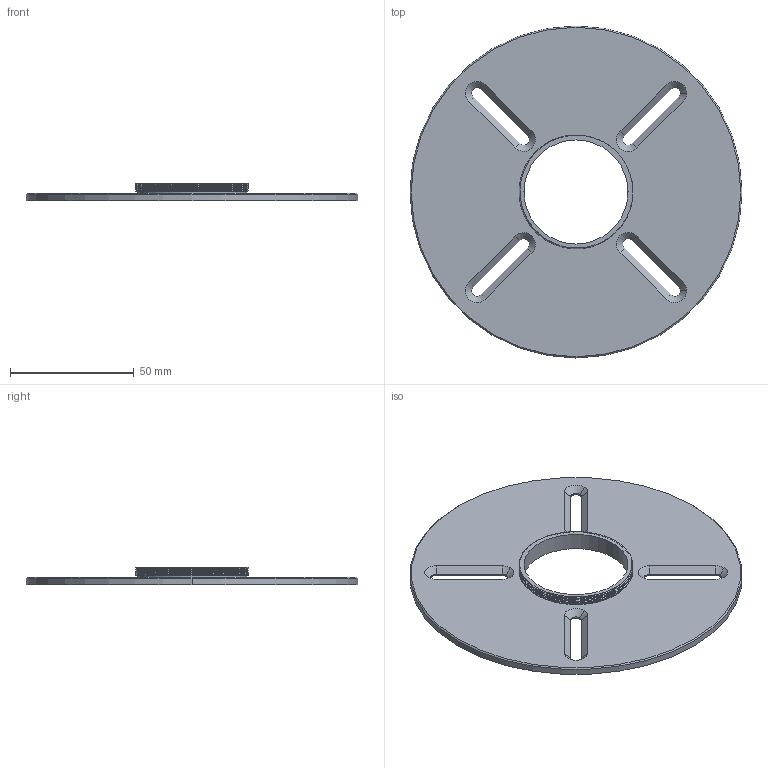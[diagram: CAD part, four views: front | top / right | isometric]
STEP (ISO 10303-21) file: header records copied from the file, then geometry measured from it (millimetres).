
FILE_DESCRIPTION (( 'STEP AP214' ), '1' );
FILE_NAME ('Ring Light Adapter.step', '2017-08-23T15:57:43', ( '' ), ( '' ), 'SwSTEP 2.0', 'SolidWorks 2017', '' );
FILE_SCHEMA (( 'AUTOMOTIVE_DESIGN' ));
Length unit declared in the file: millimetre
Products named in the file (1): Ring Light Adapter
Bounding box: 134 x 134 x 7 mm (x, y, z)
Volume: 36542.6 mm3; surface area: 27861.4 mm2
Topology: 1 solids, 1 shells, 65 faces, 161 edges, 100 vertices
Faces by surface type: cylinder 28, plane 20, cone 14, bspline 3
Entity records: 2961 total; most frequent: CARTESIAN_POINT 1415, ORIENTED_EDGE 322, DIRECTION 309, EDGE_CURVE 161, AXIS2_PLACEMENT_3D 114, VERTEX_POINT 100, LINE 81, VECTOR 81
